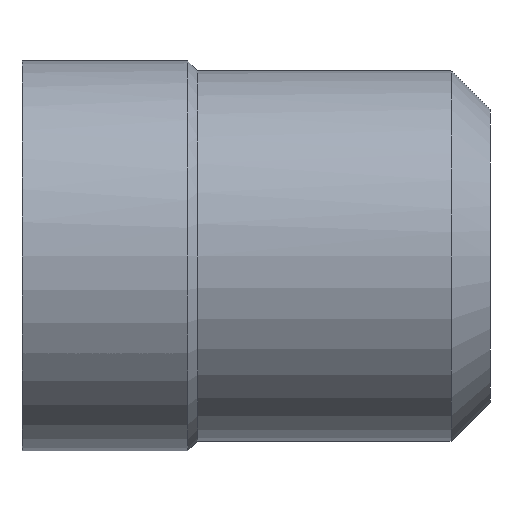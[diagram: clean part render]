
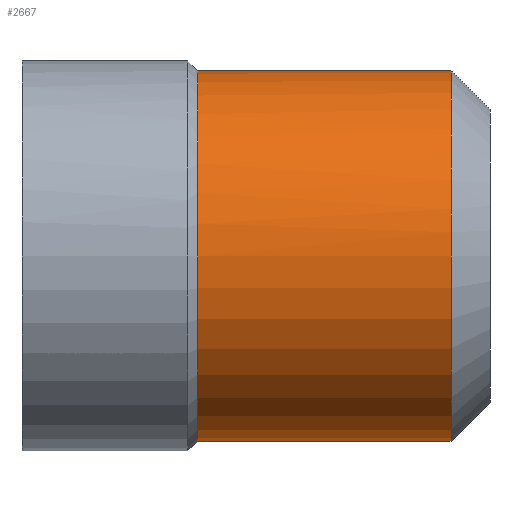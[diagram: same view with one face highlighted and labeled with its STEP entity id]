
A CAD part, front view. The second image highlights one B-rep face of the part: STEP entity #2667.
In plain terms, the highlighted cylindrical face has radius 4.75 mm (diameter 9.5 mm), a partial arc.
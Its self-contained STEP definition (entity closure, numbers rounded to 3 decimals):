
#2318=CARTESIAN_POINT('Vertex',(4.5,0.,4.75)) ;
#2332=CARTESIAN_POINT('Vertex',(4.5,0.,-4.75)) ;
#2354=CARTESIAN_POINT('Axis2P3D Location',(4.5,0.,0.)) ;
#2358=CARTESIAN_POINT('Vertex',(4.5,-4.75,0.)) ;
#2361=CARTESIAN_POINT('Axis2P3D Location',(4.5,0.,0.)) ;
#2601=CARTESIAN_POINT('Line Origine',(4.564,0.,-4.75)) ;
#2605=CARTESIAN_POINT('Vertex',(11.,0.,-4.75)) ;
#2608=CARTESIAN_POINT('Line Origine',(4.564,0.,4.75)) ;
#2612=CARTESIAN_POINT('Vertex',(11.,0.,4.75)) ;
#2639=CARTESIAN_POINT('Axis2P3D Location',(4.564,0.,0.)) ;
#2644=CARTESIAN_POINT('Axis2P3D Location',(11.,0.,0.)) ;
#2648=CARTESIAN_POINT('Vertex',(11.,-4.75,0.)) ;
#2652=CARTESIAN_POINT('Control Point',(11.,0.,4.75)) ;
#2653=CARTESIAN_POINT('Control Point',(11.,-1.492,4.75)) ;
#2654=CARTESIAN_POINT('Control Point',(11.,-2.986,4.166)) ;
#2655=CARTESIAN_POINT('Control Point',(11.,-4.166,2.986)) ;
#2656=CARTESIAN_POINT('Control Point',(11.,-4.75,1.492)) ;
#2657=CARTESIAN_POINT('Control Point',(11.,-4.75,0.)) ;
#2355=DIRECTION('Axis2P3D Direction',(-1.,0.,0.)) ;
#2362=DIRECTION('Axis2P3D Direction',(-1.,0.,0.)) ;
#2602=DIRECTION('Vector Direction',(-1.,0.,0.)) ;
#2609=DIRECTION('Vector Direction',(-1.,0.,0.)) ;
#2640=DIRECTION('Axis2P3D Direction',(-1.,-0.,-0.)) ;
#2641=DIRECTION('Axis2P3D XDirection',(0.,0.,-1.)) ;
#2645=DIRECTION('Axis2P3D Direction',(-1.,-0.,-0.)) ;
#2356=AXIS2_PLACEMENT_3D('Circle Axis2P3D',#2354,#2355,$) ;
#2363=AXIS2_PLACEMENT_3D('Circle Axis2P3D',#2361,#2362,$) ;
#2642=AXIS2_PLACEMENT_3D('Cylinder Axis2P3D',#2639,#2640,#2641) ;
#2646=AXIS2_PLACEMENT_3D('Circle Axis2P3D',#2644,#2645,$) ;
#2660=ORIENTED_EDGE('',*,*,#2614,.T.) ;
#2661=ORIENTED_EDGE('',*,*,#2365,.T.) ;
#2662=ORIENTED_EDGE('',*,*,#2360,.T.) ;
#2663=ORIENTED_EDGE('',*,*,#2607,.T.) ;
#2664=ORIENTED_EDGE('',*,*,#2650,.F.) ;
#2665=ORIENTED_EDGE('',*,*,#2658,.F.) ;
#2603=VECTOR('Line Direction',#2602,1.) ;
#2610=VECTOR('Line Direction',#2609,1.) ;
#2667=ADVANCED_FACE('MSO510',(#2666),#2643,.T.) ;
#2651=B_SPLINE_CURVE_WITH_KNOTS('',5,(#2652,#2653,#2654,#2655,#2656,#2657),.UNSPECIFIED.,.F.,.U.,(6,6),(-3.731,3.731),.UNSPECIFIED.) ;
#2357=CIRCLE('generated circle',#2356,4.75) ;
#2364=CIRCLE('generated circle',#2363,4.75) ;
#2647=CIRCLE('generated circle',#2646,4.75) ;
#2643=CYLINDRICAL_SURFACE('generated cylinder',#2642,4.75) ;
#2360=EDGE_CURVE('',#2359,#2333,#2357,.F.) ;
#2365=EDGE_CURVE('',#2319,#2359,#2364,.F.) ;
#2607=EDGE_CURVE('',#2333,#2606,#2604,.F.) ;
#2614=EDGE_CURVE('',#2613,#2319,#2611,.T.) ;
#2650=EDGE_CURVE('',#2649,#2606,#2647,.F.) ;
#2658=EDGE_CURVE('',#2613,#2649,#2651,.T.) ;
#2659=EDGE_LOOP('',(#2660,#2661,#2662,#2663,#2664,#2665)) ;
#2666=FACE_OUTER_BOUND('',#2659,.T.) ;
#2604=LINE('Line',#2601,#2603) ;
#2611=LINE('Line',#2608,#2610) ;
#2319=VERTEX_POINT('',#2318) ;
#2333=VERTEX_POINT('',#2332) ;
#2359=VERTEX_POINT('',#2358) ;
#2606=VERTEX_POINT('',#2605) ;
#2613=VERTEX_POINT('',#2612) ;
#2649=VERTEX_POINT('',#2648) ;
